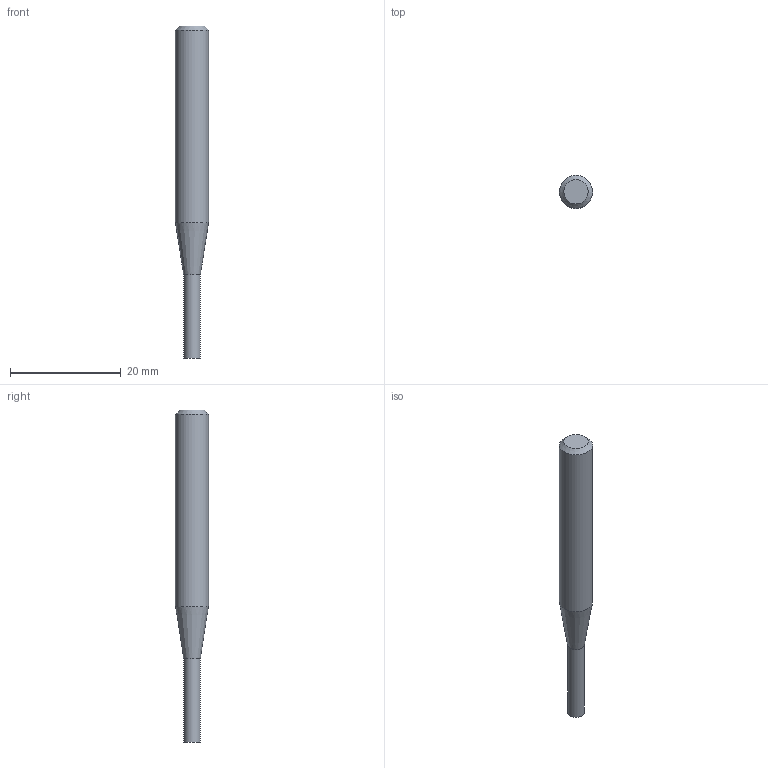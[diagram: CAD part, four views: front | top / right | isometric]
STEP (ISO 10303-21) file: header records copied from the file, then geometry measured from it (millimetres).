
FILE_DESCRIPTION((''),'2;1');
FILE_NAME('C:\Users\nsx150\Desktop\RSE230_20210427\01-00644-03002 RSE230 D3X15Xd6.step','2021-05-07T14:53:53',(''),(''),'STEP Write','Mastercam 2021 ... CNC Software, Inc.','');
FILE_SCHEMA(('AUTOMOTIVE_DESIGN'));
Length unit declared in the file: millimetre
Products named in the file (1): None
Bounding box: 6 x 6 x 60 mm (x, y, z)
Volume: 1261.3 mm3; surface area: 986.5 mm2
Topology: 2 solids, 2 shells, 8 faces, 10 edges, 6 vertices
Faces by surface type: plane 4, cylinder 2, cone 2
Full cylindrical faces by diameter (mm): 3 x1, 6 x1
Entity records: 190 total; most frequent: DIRECTION 32, CARTESIAN_POINT 22, AXIS2_PLACEMENT_3D 16, ORIENTED_EDGE 12, EDGE_LOOP 12, STYLED_ITEM 11, ADVANCED_FACE 8, VERTEX_POINT 6
